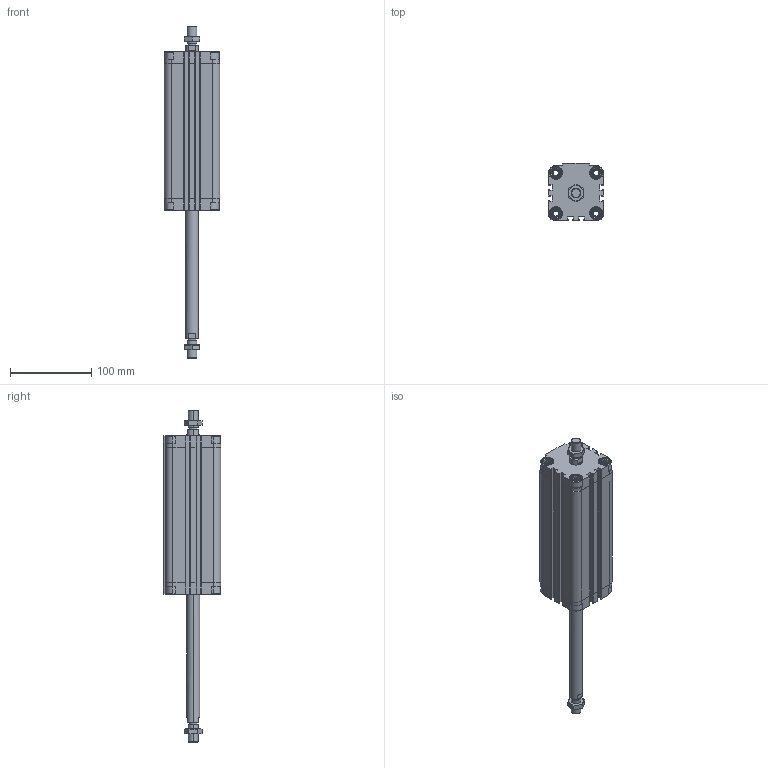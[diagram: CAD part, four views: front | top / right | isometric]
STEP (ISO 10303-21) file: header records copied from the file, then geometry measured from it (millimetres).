
FILE_DESCRIPTION (( 'STEP AP203' ), '1' );
FILE_NAME ('CDVU50-150M-P.STEP', '2020-07-21T15:20:28', ( '' ), ( '' ), 'SwSTEP 2.0', 'SolidWorks 2019', '' );
FILE_SCHEMA (( 'CONFIG_CONTROL_DESIGN' ));
Length unit declared in the file: millimetre
Products named in the file (1): CDVU50-150M-P
Bounding box: 68 x 71 x 408.5 mm (x, y, z)
Volume: 584032.1 mm3; surface area: 158916.3 mm2
Topology: 4 solids, 4 shells, 758 faces, 2004 edges, 1290 vertices
Faces by surface type: plane 438, cylinder 240, cone 64, torus 16
Entity records: 24259 total; most frequent: CARTESIAN_POINT 5321, ORIENTED_EDGE 4000, DIRECTION 3878, EDGE_CURVE 2000, AXIS2_PLACEMENT_3D 1335, VERTEX_POINT 1290, VECTOR 1208, LINE 1208
